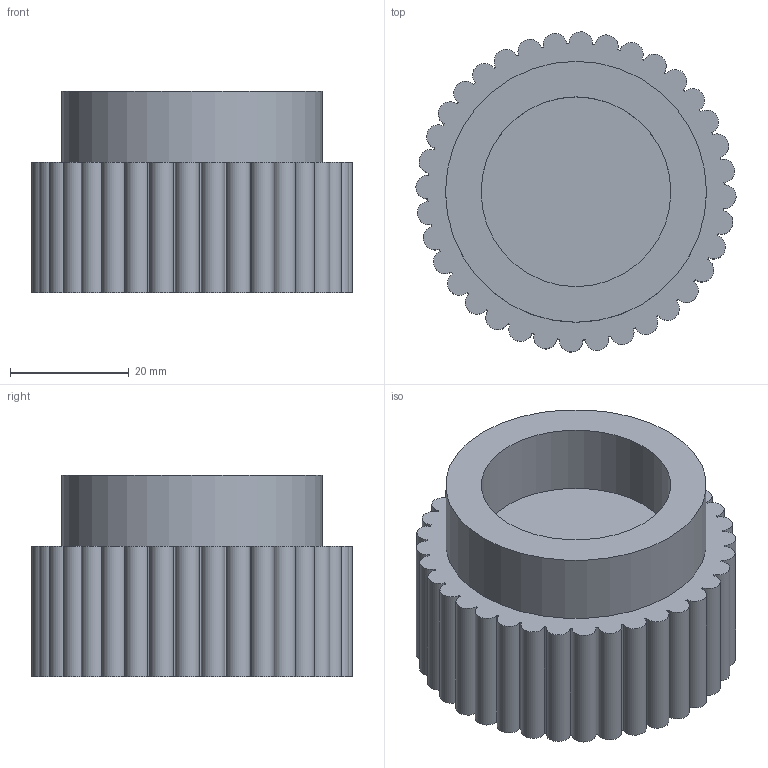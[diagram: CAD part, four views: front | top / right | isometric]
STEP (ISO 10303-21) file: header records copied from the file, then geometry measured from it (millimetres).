
FILE_DESCRIPTION(('STEP AP242'), '1');
FILE_NAME('Êðûøêà', '', ('UNSPECIFIED'), ('UNSPECIFIED'), 'C3D Converter', 'C3D Toolkit', '');
FILE_SCHEMA(('AP242_MANAGED_MODEL_BASED_3D_ENGINEERING_MIM_LF { 1 0 10303 442 1 1 4 }'));
Length unit declared in the file: millimetre
Bounding box: 53.97 x 53.97 x 34 mm (x, y, z)
Volume: 56853.1 mm3; surface area: 12642.1 mm2
Topology: 1 solids, 1 shells, 78 faces, 222 edges, 148 vertices
Faces by surface type: cylinder 74, plane 4
Full cylindrical faces by diameter (mm): 32 x1, 44 x1
Entity records: 2664 total; most frequent: DIRECTION 526, CARTESIAN_POINT 447, ORIENTED_EDGE 440, AXIS2_PLACEMENT_3D 227, EDGE_CURVE 220, VERTEX_POINT 148, CIRCLE 148, EDGE_LOOP 82
